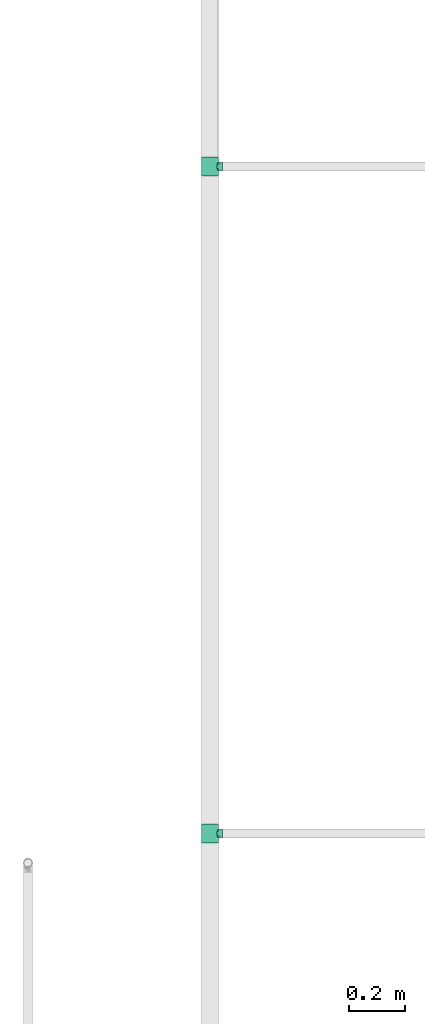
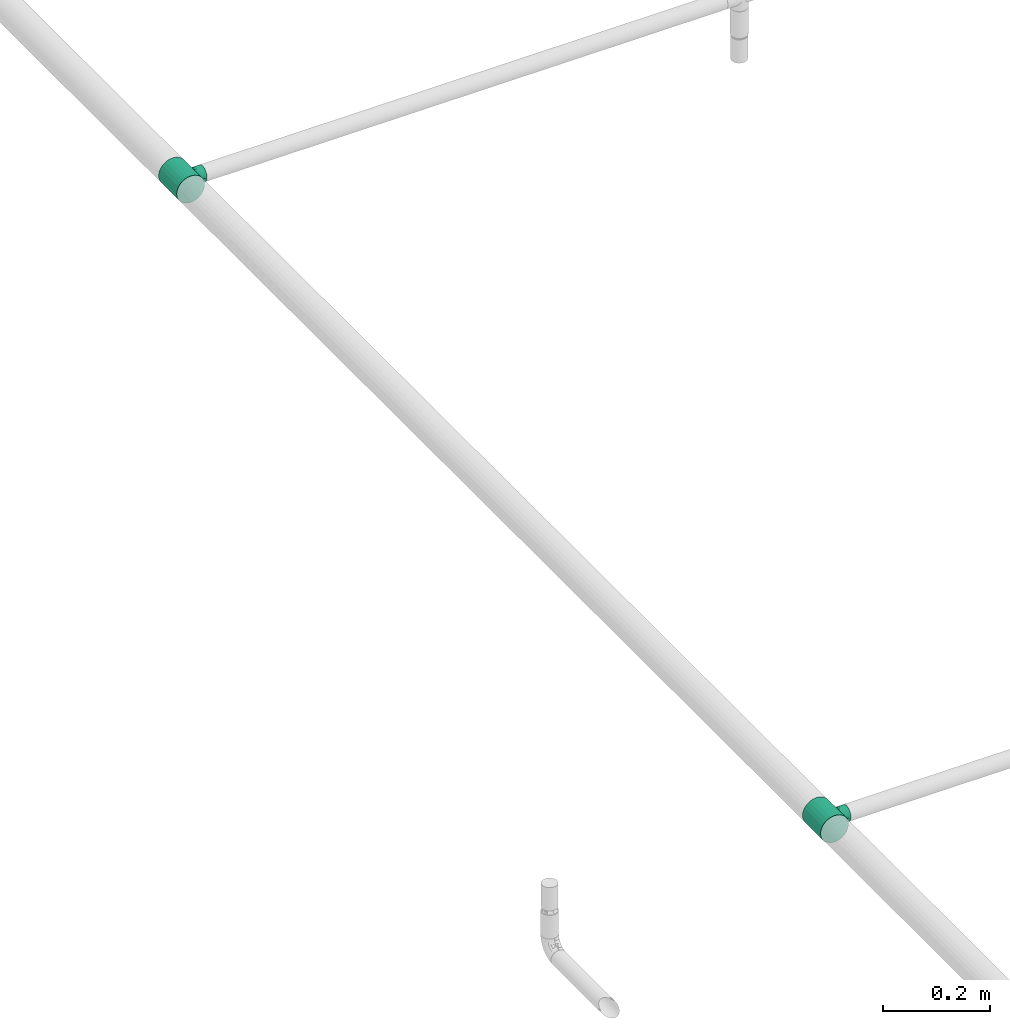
# One storey, part 8 of 45: 2 flow fittings.
"""IFC2X3 building model written with IfcOpenShell, lengths in millimetres."""

from ifc_helpers import new_model, entity, si_unit, converted_unit, derived_unit, direction, frame, origin_with_axes, place, context, subcontext, project, spatial, open_shell, surface_model, source, transform, mapped, type_object, element, save


model = new_model("IFC2X3")

# Units and contexts
model_context = context("Model", 3, precision=0.01, world=frame((0.0, 4.29681676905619e-09, 0.0)), true_north=direction((4.01073788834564e-13, 1.0)))
plan_context = context("Plan", 3, precision=0.01, world=frame((0.0, 4.29681676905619e-09, 0.0)), true_north=direction((4.01073788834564e-13, 1.0)))
body_context = subcontext(model_context, "Body", "Model", "MODEL_VIEW")
ifc_project = project(units=[converted_unit("PLANEANGLEUNIT", "DEGREE", entity("IfcPositiveLengthMeasure", 0.0174532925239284), si_unit("PLANEANGLEUNIT", "RADIAN"), dimensions=[0, 0, 0, 0, 0, 0, 0]), si_unit("AREAUNIT", "SQUARE_METRE"), si_unit("LENGTHUNIT", "METRE", prefix="MILLI"), si_unit("MASSUNIT", "GRAM", prefix="KILO"), si_unit("POWERUNIT", "WATT"), si_unit("PRESSUREUNIT", "PASCAL", prefix="KILO"), si_unit("FORCEUNIT", "NEWTON", prefix="KILO"), si_unit("ELECTRICVOLTAGEUNIT", "VOLT"), si_unit("ELECTRICCURRENTUNIT", "AMPERE"), si_unit("THERMODYNAMICTEMPERATUREUNIT", "DEGREE_CELSIUS"), si_unit("TIMEUNIT", "SECOND"), si_unit("VOLUMEUNIT", "CUBIC_METRE"), derived_unit("LINEARVELOCITYUNIT", [(si_unit("LENGTHUNIT", "METRE"), 1), (si_unit("TIMEUNIT", "SECOND"), -1)]), derived_unit("VOLUMETRICFLOWRATEUNIT", [(si_unit("VOLUMEUNIT", "CUBIC_METRE"), 1), (si_unit("TIMEUNIT", "SECOND"), -1)]), derived_unit("THERMALTRANSMITTANCEUNIT", [(si_unit("POWERUNIT", "WATT"), 1), (si_unit("THERMODYNAMICTEMPERATUREUNIT", "KELVIN"), -1), (si_unit("AREAUNIT", "SQUARE_METRE"), -1)]), derived_unit("SOUNDPRESSUREUNIT", [(si_unit("PRESSUREUNIT", "PASCAL"), 1)])], contexts=[model_context, plan_context])

# Site, building, storey
site_placement = place(None, frame((0.0, -4.29681676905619e-09, 0.0), z_axis=(0.0, 0.0, 1.0), x_axis=(1.0, 0.0, 0.0)))
site = spatial("IfcSite", under=ifc_project, at=site_placement, CompositionType="ELEMENT")
building_placement = place(site_placement, frame((0.0, 4.29681676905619e-09, 0.0), z_axis=(0.0, 0.0, 1.0), x_axis=(1.0, 0.0, 0.0)))
building = spatial("IfcBuilding", under=site, at=building_placement, Name="mc-building", CompositionType="ELEMENT")
storey_placement = place(building_placement, frame((0.0, 0.0, 210200.0), z_axis=(0.0, 0.0, 1.0), x_axis=(1.0, 0.0, 0.0)))
storey = spatial("IfcBuildingStorey", under=building, at=storey_placement, Name="Nivå F - 0,7 m", CompositionType="ELEMENT", Elevation=210200.0)

# Flow fittings
pipe_fitting_type = type_object("IfcPipeFittingType", Name="magi_pipe_fe_tee_centric_90_001", PredefinedType="JUNCTION")
shared_shape = source(origin_with_axes(), body_context, "Body", "SurfaceModel", [
    surface_model("IfcShellBasedSurfaceModel", [(-33.8, 15.1, -26.15397), (-33.8, 7.81634, -29.17096), (-33.8, 0.0, -30.2), (-33.8, 29.17096, -7.81634), (-33.8, 26.15397, -15.1), (-33.8, 21.35462, -21.35462), (-33.8, 30.2, 0.0), (-33.8, -30.2, 0.0), (-33.8, -15.1, -26.15397), (-33.8, -21.35462, -21.35462), (-33.8, -7.81634, -29.17096), (-33.8, -26.15397, -15.1), (-33.8, -29.17096, -7.81634), (-33.8, 26.15397, 15.1), (-33.8, 29.17096, 7.81634), (-33.8, 15.1, 26.15397), (-33.8, -21.35462, 21.35462), (-33.8, 21.35462, 21.35462), (-33.8, 7.81634, 29.17096), (-33.8, -29.17096, 7.81634), (-33.8, -26.15397, 15.1), (-33.8, -7.81634, 29.17096), (-33.8, 0.0, 30.2), (-33.8, -15.1, 26.15397), (33.8, 29.17096, -7.81634), (33.8, 0.0, -30.2), (33.8, 7.81634, -29.17096), (33.8, 21.35462, -21.35462), (33.8, 15.1, -26.15397), (33.8, 26.15397, -15.1), (33.8, -30.2, 0.0), (33.8, -7.81634, -29.17096), (33.8, -21.35462, -21.35462), (33.8, -15.1, -26.15397), (33.8, -29.17096, -7.81634), (33.8, -26.15397, -15.1), (33.8, 30.2, 0.0), (33.8, 29.17096, 7.81634), (33.8, 26.15397, 15.1), (33.8, -29.17096, 7.81634), (33.8, 15.1, 26.15397), (33.8, 7.81634, 29.17096), (33.8, 21.35462, 21.35462), (33.8, -21.35462, 21.35462), (33.8, -26.15397, 15.1), (33.8, -15.1, 26.15397), (33.8, 0.0, 30.2), (33.8, -7.81634, 29.17096), (33.8, -29.68548, 3.90817), (15.846, -29.62306, 5.87488), (16.373, -29.91153, 2.93744), (12.91037, -28.16217, 10.90561), (2.99213, -25.2068, 16.63301), (16.9, -30.2, 0.0), (33.8, -27.66246, 11.45817), (8.50854, -26.43531, 14.60187), (-8.51006, -26.43579, 14.60099), (-33.8, -27.66246, 11.45817), (-12.91447, -28.16405, 10.90075), (-15.84655, -29.62335, 5.87341), (-33.8, -29.68548, 3.90817), (-16.37327, -29.91168, 2.93671), (-16.9, -30.2, 0.0), (-2.99705, -25.20739, 16.63213), (2.99213, -25.2068, -16.63301), (-16.37327, -29.91168, -2.93671), (8.50854, -26.43531, -14.60187), (33.8, -27.66246, -11.45817), (16.373, -29.91153, -2.93744), (-33.8, -29.68548, -3.90817), (-15.84655, -29.62335, -5.87341), (15.846, -29.62306, -5.87488), (12.91037, -28.16217, -10.90561), (33.8, -29.68548, -3.90817), (-2.99705, -25.20739, -16.63213), (-8.51006, -26.43579, -14.60099), (-12.91447, -28.16405, -10.90075), (-33.8, -27.66246, -11.45817), (4.37404, -45.3, -16.32415), (-16.9, -45.3, 0.0), (0.0, -45.3, -16.9), (14.63583, -45.3, -8.45), (8.45, -45.3, -14.63583), (16.32415, -45.3, -4.37404), (11.9501, -45.3, -11.9501), (-11.9501, -45.3, -11.9501), (-8.45, -45.3, -14.63583), (-4.37404, -45.3, -16.32415), (-14.63583, -45.3, -8.45), (-16.32415, -45.3, -4.37404), (16.9, -45.3, 0.0), (8.45, -45.3, 14.63583), (16.32415, -45.3, 4.37404), (14.63583, -45.3, 8.45), (-8.45, -45.3, 14.63583), (11.9501, -45.3, 11.9501), (4.37404, -45.3, 16.32415), (-16.32415, -45.3, 4.37404), (-11.9501, -45.3, 11.9501), (-14.63583, -45.3, 8.45), (0.0, -45.3, 16.9), (-4.37404, -45.3, 16.32415), (-5.75355, -25.82159, 15.61656), (-0.00246, -25.20709, 16.63257), (5.75034, -25.82105, 15.61744), (5.75034, -25.82105, -15.61744), (-0.00246, -25.20709, -16.63257), (-5.75355, -25.82159, -15.61656)], [open_shell([[[0, 1, 2]], [[3, 0, 2]], [[0, 3, 4]], [[5, 0, 4]], [[6, 2, 7]], [[8, 9, 10]], [[9, 2, 10]], [[11, 12, 9]], [[7, 9, 12]], [[9, 7, 2]], [[6, 3, 2]], [[13, 14, 6]], [[7, 15, 13]], [[7, 16, 15]], [[17, 13, 15]], [[18, 15, 16]], [[19, 20, 7]], [[7, 20, 16]], [[21, 22, 23]], [[16, 23, 22]], [[16, 22, 18]], [[7, 13, 6]], [[24, 25, 26]], [[27, 26, 28]], [[29, 24, 26]], [[29, 26, 27]], [[25, 24, 30]], [[31, 32, 33]], [[32, 31, 34]], [[32, 34, 35]], [[34, 31, 30]], [[31, 25, 30]], [[24, 36, 30]], [[36, 37, 38]], [[39, 36, 38]], [[40, 41, 38]], [[40, 38, 42]], [[43, 38, 41]], [[39, 43, 44]], [[39, 38, 43]], [[45, 46, 47]], [[46, 45, 43]], [[41, 46, 43]], [[36, 39, 30]], [[48, 39, 49]], [[30, 48, 50]], [[39, 51, 49]], [[44, 43, 52]], [[30, 50, 53]], [[51, 54, 55]], [[52, 55, 44]], [[48, 49, 50]], [[43, 16, 52]], [[55, 54, 44]], [[56, 57, 58]], [[59, 60, 61]], [[62, 61, 7]], [[59, 58, 19]], [[56, 63, 20]], [[51, 39, 54]], [[20, 57, 56]], [[20, 63, 16]], [[58, 57, 19]], [[63, 52, 16]], [[7, 61, 60]], [[59, 19, 60]], [[43, 23, 16]], [[22, 47, 46]], [[21, 45, 47]], [[18, 46, 41]], [[38, 37, 14]], [[17, 40, 42]], [[13, 42, 38]], [[41, 40, 15]], [[6, 37, 36]], [[23, 45, 21]], [[21, 47, 22]], [[18, 22, 46]], [[41, 15, 18]], [[15, 40, 17]], [[13, 17, 42]], [[14, 13, 38]], [[37, 6, 14]], [[45, 23, 43]], [[4, 24, 29]], [[3, 36, 24]], [[5, 29, 27]], [[25, 31, 10]], [[1, 28, 26]], [[2, 26, 25]], [[27, 28, 0]], [[8, 31, 33]], [[6, 36, 3]], [[3, 24, 4]], [[5, 4, 29]], [[27, 0, 5]], [[0, 28, 1]], [[2, 1, 26]], [[10, 2, 25]], [[31, 8, 10]], [[33, 9, 8]], [[32, 35, 64]], [[7, 65, 62]], [[66, 64, 35]], [[67, 66, 35]], [[32, 64, 9]], [[53, 68, 30]], [[69, 70, 65]], [[71, 72, 34]], [[71, 73, 68]], [[66, 67, 72]], [[34, 72, 67]], [[74, 75, 11]], [[76, 12, 77]], [[11, 9, 74]], [[76, 77, 75]], [[74, 9, 64]], [[76, 70, 12]], [[71, 34, 73]], [[70, 69, 12]], [[65, 7, 69]], [[30, 68, 73]], [[77, 11, 75]], [[32, 9, 33]], [[78, 79, 80]], [[81, 78, 82]], [[81, 83, 78]], [[81, 82, 84]], [[79, 78, 83]], [[80, 85, 86]], [[86, 87, 80]], [[88, 79, 89]], [[85, 80, 88]], [[79, 88, 80]], [[83, 90, 79]], [[91, 90, 92]], [[91, 92, 93]], [[94, 79, 91]], [[91, 93, 95]], [[94, 91, 96]], [[97, 98, 99]], [[98, 97, 94]], [[94, 100, 101]], [[97, 79, 94]], [[96, 100, 94]], [[91, 79, 90]], [[97, 61, 79]], [[58, 99, 98]], [[97, 99, 59]], [[98, 94, 56]], [[61, 62, 79]], [[59, 99, 58]], [[101, 63, 102]], [[56, 58, 98]], [[100, 52, 103]], [[91, 104, 96]], [[100, 96, 52]], [[50, 49, 92]], [[50, 90, 53]], [[104, 91, 55]], [[102, 94, 101]], [[102, 56, 94]], [[100, 63, 101]], [[97, 59, 61]], [[55, 91, 95]], [[95, 51, 55]], [[52, 96, 104]], [[92, 49, 93]], [[90, 50, 92]], [[93, 49, 51]], [[93, 51, 95]], [[103, 63, 100]], [[83, 68, 90]], [[72, 81, 84]], [[83, 81, 71]], [[84, 82, 66]], [[68, 53, 90]], [[71, 81, 72]], [[78, 64, 105]], [[66, 72, 84]], [[80, 74, 106]], [[86, 107, 87]], [[65, 70, 89]], [[105, 82, 78]], [[105, 66, 82]], [[75, 86, 85]], [[83, 71, 68]], [[70, 88, 89]], [[65, 79, 62]], [[85, 88, 76]], [[80, 64, 78]], [[87, 107, 74]], [[74, 80, 87]], [[75, 107, 86]], [[75, 85, 76]], [[76, 88, 70]], [[79, 65, 89]], [[106, 64, 80]]])]),
])
for number, where, z_axis, x_axis, name in (
    (1, (329619.17326, 463728.25463, 3145.0), (0.0, 0.0, 1.0), (0.0, 1.0, 0.0), "magi_pipe_fe_tee_centric_90_001"),
    (2, (329619.17326, 466128.25463, 3145.0), (0.0, 0.0, -1.0), (0.0, -1.0, 0.0), "magi_pipe_fe_tee_centric_90_001"),
):
    element("IfcFlowFitting", number, at=place(storey_placement, frame(where, z_axis=z_axis, x_axis=x_axis)), inside=storey, type_object=pipe_fitting_type, Name=name, context=body_context, shape_type="MappedRepresentation", body=[
        mapped(shared_shape, transform((0.0, 0.0, 0.0), scale=1.0)),
    ])

save(model, "model.ifc")
